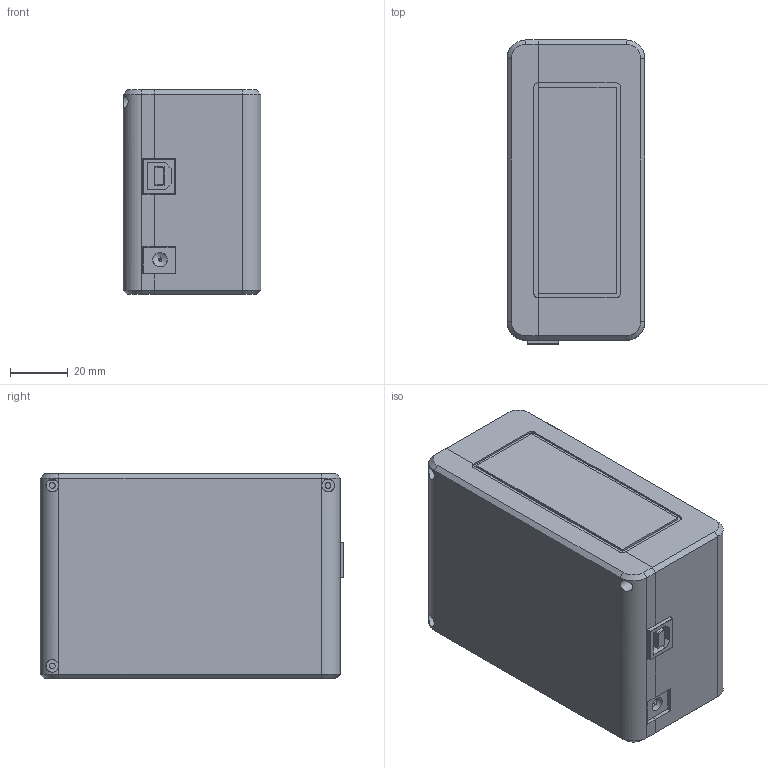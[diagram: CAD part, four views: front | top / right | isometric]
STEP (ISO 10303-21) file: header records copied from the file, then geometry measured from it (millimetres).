
FILE_DESCRIPTION(/* description */ (''),/* implementation_level */ '2;1');
FILE_NAME(/* name */ '甲醛检测.stp',/* time_stamp */ '2017-08-31T15:43:11+08:00',/* author */ (''),/* organization */ (''),/* preprocessor_version */ 'ST-DEVELOPER v16',/* originating_system */ 'SIEMENS PLM Software NX 10.0',/* authorisation */ '');
FILE_SCHEMA (('AUTOMOTIVE_DESIGN { 1 0 10303 214 3 1 1 1 }'));
Products named in the file (1): Admi11141C3Ciyk5
Bounding box: 47.86 x 105.38 x 71.1 mm (x, y, z)
Volume: 104727.6 mm3; surface area: 97475.6 mm2
Topology: 278 solids, 278 shells, 5632 faces, 13945 edges, 8926 vertices
Faces by surface type: plane 4336, cylinder 1034, sphere 160, bspline 51, extrusion 25, cone 14, torus 12
Full cylindrical faces by diameter (mm): 1.1 x1, 1.2 x4, 1.8 x4, 2 x11, 2.2 x4, 3 x4, 3.1 x4, 3.2 x4, 3.77 x2, 4.4 x3, 5 x3, 6 x2, 6.3 x4, 6.4 x4, 10.9 x1, 11.1 x2
Entity records: 177789 total; most frequent: CARTESIAN_POINT 32968, ORIENTED_EDGE 27486, DIRECTION 26745, EDGE_CURVE 13743, VECTOR 11457, LINE 11432, VERTEX_POINT 8883, AXIS2_PLACEMENT_3D 7644
